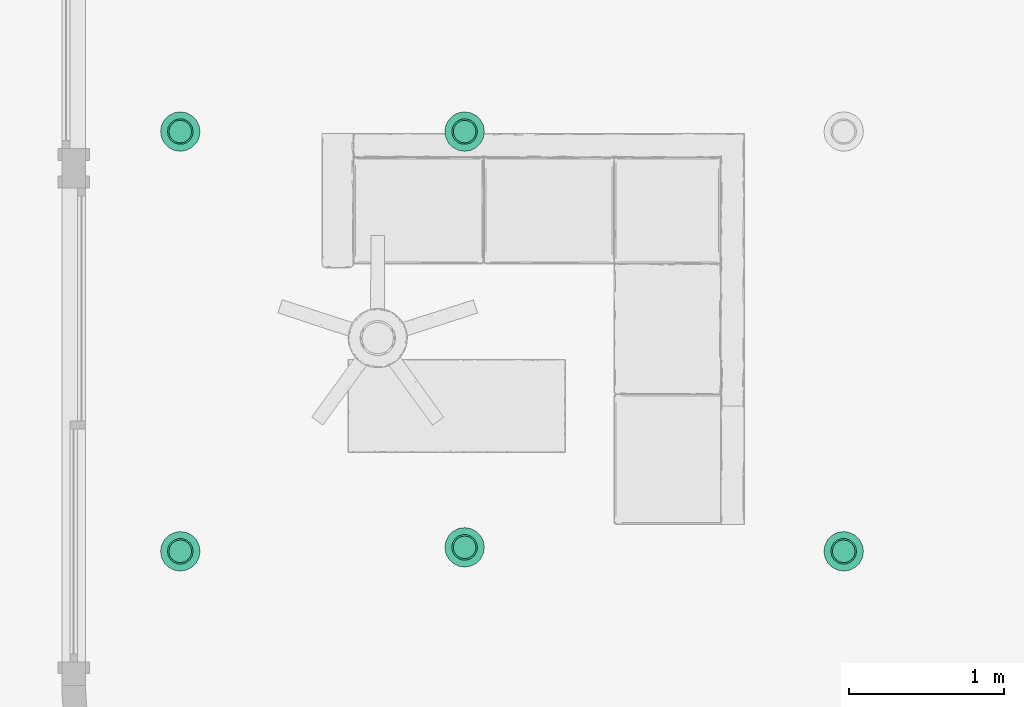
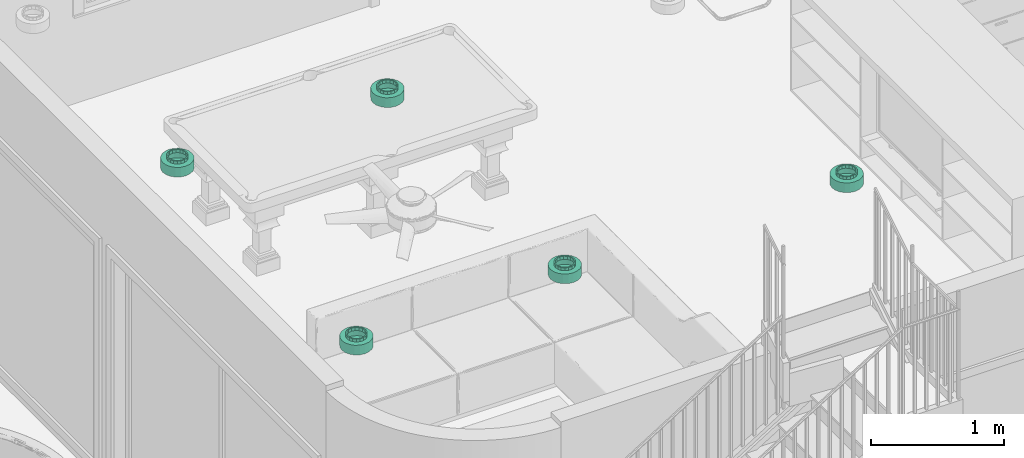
# One storey, part 13 of 21: 5 flow terminals.
"""IFC2X3 building model written with IfcOpenShell, lengths in feet."""

from ifc_helpers import new_model, entity, si_unit, converted_unit, derived_unit, direction, frame, origin, place, context, subcontext, project, spatial, faceted_brep, source, transform, mapped, material, material_list, type_object, type_shapes, element, save


model = new_model("IFC2X3")

# Units and contexts
model_context = context("Model", 3, precision=0.0001, world=origin(), true_north=direction((6.12303176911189e-17, 1.0)))
body_context = subcontext(model_context, "Body", "Model", "MODEL_VIEW")
ifc_project = project(units=[converted_unit("LENGTHUNIT", "FOOT", entity("IfcRatioMeasure", 0.3048), si_unit("LENGTHUNIT", "METRE"), dimensions=[1, 0, 0, 0, 0, 0, 0]), converted_unit("AREAUNIT", "SQUARE FOOT", entity("IfcRatioMeasure", 0.09290304), si_unit("AREAUNIT", "SQUARE_METRE"), dimensions=[2, 0, 0, 0, 0, 0, 0]), converted_unit("VOLUMEUNIT", "CUBIC FOOT", entity("IfcRatioMeasure", 0.028316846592), si_unit("VOLUMEUNIT", "CUBIC_METRE"), dimensions=[3, 0, 0, 0, 0, 0, 0]), converted_unit("PLANEANGLEUNIT", "DEGREE", entity("IfcRatioMeasure", 0.0174532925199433), si_unit("PLANEANGLEUNIT", "RADIAN"), dimensions=[0, 0, 0, 0, 0, 0, 0]), si_unit("MASSUNIT", "GRAM", prefix="KILO"), derived_unit("MASSDENSITYUNIT", [(si_unit("MASSUNIT", "GRAM", prefix="KILO"), 1), (si_unit("LENGTHUNIT", "METRE"), -3)]), si_unit("TIMEUNIT", "SECOND"), si_unit("FREQUENCYUNIT", "HERTZ"), si_unit("THERMODYNAMICTEMPERATUREUNIT", "DEGREE_CELSIUS"), derived_unit("THERMALTRANSMITTANCEUNIT", [(si_unit("MASSUNIT", "GRAM", prefix="KILO"), 1), (si_unit("THERMODYNAMICTEMPERATUREUNIT", "KELVIN"), -1), (si_unit("TIMEUNIT", "SECOND"), -3)]), derived_unit("VOLUMETRICFLOWRATEUNIT", [(si_unit("LENGTHUNIT", "METRE"), 3), (si_unit("TIMEUNIT", "SECOND"), -1)]), si_unit("ELECTRICCURRENTUNIT", "AMPERE"), si_unit("ELECTRICVOLTAGEUNIT", "VOLT"), si_unit("POWERUNIT", "WATT"), si_unit("FORCEUNIT", "NEWTON"), si_unit("ILLUMINANCEUNIT", "LUX"), si_unit("LUMINOUSFLUXUNIT", "LUMEN"), si_unit("LUMINOUSINTENSITYUNIT", "CANDELA"), derived_unit("USERDEFINED", [(si_unit("MASSUNIT", "GRAM", prefix="KILO"), -1), (si_unit("LENGTHUNIT", "METRE"), -2), (si_unit("TIMEUNIT", "SECOND"), 3), (si_unit("LUMINOUSFLUXUNIT", "LUMEN"), 1)]), derived_unit("LINEARVELOCITYUNIT", [(si_unit("LENGTHUNIT", "METRE"), 1), (si_unit("TIMEUNIT", "SECOND"), -1)]), si_unit("PRESSUREUNIT", "PASCAL"), derived_unit("USERDEFINED", [(si_unit("LENGTHUNIT", "METRE"), -2), (si_unit("MASSUNIT", "GRAM", prefix="KILO"), 1), (si_unit("TIMEUNIT", "SECOND"), -2)])], contexts=[model_context])

# Site, building, storey
site_placement = place(None, origin())
site = spatial("IfcSite", under=ifc_project, at=site_placement, Name="表面", CompositionType="ELEMENT")
building_placement = place(site_placement, origin())
building = spatial("IfcBuilding", under=site, at=building_placement, CompositionType="ELEMENT")
storey_placement = place(building_placement, origin())
storey = spatial("IfcBuildingStorey", under=building, at=storey_placement, Name="Level 1", CompositionType="ELEMENT", Elevation=0.0)

# Flow terminals
ifc_material_1 = material(Name="Metal - Paint Finish - Dark Gray, Matte")
ifc_material_2 = material(Name="Glass - White, High Luminance")
ifc_material_list_1 = material_list([ifc_material_1, ifc_material_2])
ifc_material_list_2 = material_list([ifc_material_1, ifc_material_2])
light_fixture_type = type_object("IfcLightFixtureType", Name="100W - 120V", PredefinedType="NOTDEFINED", material=ifc_material_list_2)
shared_shape = source(origin(), body_context, "Body", "Brep", [
    faceted_brep([(0.557291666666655, 0.187326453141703, 0.374999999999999), (0.598651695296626, 0.245098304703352, 0.374999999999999), (0.558098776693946, 0.218001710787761, 0.374999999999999), (0.629345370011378, 0.247786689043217, 0.374999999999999), (0.517545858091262, 0.190905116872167, 0.374999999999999), (0.468904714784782, 0.155156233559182, 0.374999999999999), (0.625748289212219, 0.285651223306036, 0.374999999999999), (0.65284488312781, 0.326204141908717, 0.374999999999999), (0.676375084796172, 0.329244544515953, 0.374999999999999), (0.6623599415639, 0.374039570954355, 0.374999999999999), (0.671874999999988, 0.42187499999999, 0.374999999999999), (0.692708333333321, 0.421874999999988, 0.374999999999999), (0.676375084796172, 0.514505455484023, 0.374999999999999), (0.662359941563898, 0.469710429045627, 0.374999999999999), (0.652844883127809, 0.517545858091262, 0.374999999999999), (0.629345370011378, 0.595963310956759, 0.374999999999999), (0.625748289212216, 0.558098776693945, 0.374999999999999), (0.598651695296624, 0.598651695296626, 0.374999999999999), (0.557291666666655, 0.656423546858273, 0.374999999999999), (0.55809877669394, 0.625748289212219, 0.374999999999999), (0.517545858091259, 0.65284488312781, 0.374999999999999), (0.468904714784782, 0.688593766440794, 0.374999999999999), (0.469710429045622, 0.662359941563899, 0.374999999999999), (0.421874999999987, 0.671874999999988, 0.374999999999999), (0.374845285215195, 0.688593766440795, 0.374999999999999), (0.374039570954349, 0.662359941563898, 0.374999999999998), (0.326204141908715, 0.652844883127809, 0.374999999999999), (0.286458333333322, 0.656423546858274, 0.374999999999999), (0.285651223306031, 0.625748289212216, 0.374999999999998), (0.245098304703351, 0.598651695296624, 0.374999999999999), (0.214404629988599, 0.59596331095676, 0.374999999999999), (0.218001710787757, 0.558098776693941, 0.374999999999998), (0.190905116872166, 0.51754585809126, 0.374999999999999), (0.167374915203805, 0.514505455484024, 0.374999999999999), (0.181390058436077, 0.469710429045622, 0.374999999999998), (0.171874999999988, 0.421874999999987, 0.374999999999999), (0.151041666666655, 0.421874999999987, 0.374999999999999), (0.167374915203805, 0.329244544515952, 0.374999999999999), (0.181390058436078, 0.374039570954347, 0.374999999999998), (0.190905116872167, 0.326204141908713, 0.374999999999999), (0.214404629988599, 0.247786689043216, 0.374999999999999), (0.218001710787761, 0.28565122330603, 0.374999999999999), (0.245098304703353, 0.245098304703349, 0.374999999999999), (0.286458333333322, 0.187326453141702, 0.374999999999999), (0.285651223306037, 0.218001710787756, 0.374999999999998), (0.326204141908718, 0.190905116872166, 0.374999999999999), (0.374845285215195, 0.155156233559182, 0.374999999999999), (0.42187499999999, 0.171874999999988, 0.374999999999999), (0.374039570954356, 0.181390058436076, 0.374999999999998), (0.469710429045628, 0.181390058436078, 0.374999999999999), (0.557291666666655, 0.656423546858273, 0.291666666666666), (0.598651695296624, 0.598651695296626, 0.291666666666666), (0.55809877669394, 0.625748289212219, 0.291666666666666), (0.629345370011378, 0.595963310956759, 0.291666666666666), (0.517545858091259, 0.65284488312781, 0.291666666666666), (0.468904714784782, 0.688593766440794, 0.291666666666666), (0.625748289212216, 0.558098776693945, 0.291666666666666), (0.652844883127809, 0.517545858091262, 0.291666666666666), (0.676375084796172, 0.514505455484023, 0.291666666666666), (0.662359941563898, 0.469710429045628, 0.291666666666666), (0.671874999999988, 0.42187499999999, 0.291666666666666), (0.692708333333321, 0.421874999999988, 0.291666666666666), (0.676375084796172, 0.329244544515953, 0.291666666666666), (0.659760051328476, 0.36096904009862, 0.291666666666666), (0.65284488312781, 0.326204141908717, 0.291666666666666), (0.629345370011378, 0.247786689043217, 0.291666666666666), (0.625748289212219, 0.285651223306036, 0.291666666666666), (0.598651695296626, 0.245098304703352, 0.291666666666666), (0.557291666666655, 0.187326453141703, 0.291666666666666), (0.558098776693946, 0.218001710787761, 0.291666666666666), (0.517545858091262, 0.190905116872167, 0.291666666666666), (0.468904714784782, 0.155156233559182, 0.291666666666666), (0.469710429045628, 0.181390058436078, 0.291666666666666), (0.42187499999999, 0.171874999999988, 0.291666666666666), (0.374845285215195, 0.155156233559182, 0.291666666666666), (0.374039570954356, 0.181390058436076, 0.291666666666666), (0.326204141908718, 0.190905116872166, 0.291666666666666), (0.286458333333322, 0.187326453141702, 0.291666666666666), (0.285651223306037, 0.218001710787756, 0.291666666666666), (0.245098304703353, 0.245098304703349, 0.291666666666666), (0.214404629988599, 0.247786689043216, 0.291666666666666), (0.218001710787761, 0.28565122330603, 0.291666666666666), (0.190905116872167, 0.326204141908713, 0.291666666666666), (0.167374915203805, 0.329244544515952, 0.291666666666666), (0.181390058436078, 0.374039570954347, 0.291666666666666), (0.171874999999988, 0.421874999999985, 0.291666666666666), (0.151041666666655, 0.421874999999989, 0.291666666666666), (0.167374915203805, 0.514505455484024, 0.291666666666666), (0.183989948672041, 0.482780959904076, 0.291666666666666), (0.190905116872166, 0.51754585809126, 0.291666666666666), (0.214404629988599, 0.59596331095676, 0.291666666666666), (0.218001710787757, 0.558098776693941, 0.291666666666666), (0.245098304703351, 0.598651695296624, 0.291666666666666), (0.286458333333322, 0.656423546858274, 0.291666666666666), (0.285651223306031, 0.625748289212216, 0.291666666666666), (0.326204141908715, 0.652844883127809, 0.291666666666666), (0.374845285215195, 0.688593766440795, 0.291666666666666), (0.421874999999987, 0.671874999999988, 0.291666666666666), (0.374039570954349, 0.662359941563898, 0.291666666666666), (0.469710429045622, 0.662359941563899, 0.291666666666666)], [[[0, 1, 2]], [[1, 0, 3]], [[0, 2, 4]], [[4, 5, 0]], [[3, 6, 1]], [[3, 7, 6]], [[7, 3, 8]], [[8, 9, 7]], [[8, 10, 9]], [[10, 8, 11]], [[10, 11, 12]], [[12, 13, 10]], [[12, 14, 13]], [[15, 14, 12]], [[15, 16, 14]], [[15, 17, 16]], [[18, 17, 15]], [[18, 19, 17]], [[18, 20, 19]], [[21, 20, 18]], [[21, 22, 20]], [[21, 23, 22]], [[24, 23, 21]], [[24, 25, 23]], [[24, 26, 25]], [[27, 26, 24]], [[27, 28, 26]], [[27, 29, 28]], [[29, 27, 30]], [[30, 31, 29]], [[30, 32, 31]], [[32, 30, 33]], [[33, 34, 32]], [[33, 35, 34]], [[36, 35, 33]], [[37, 35, 36]], [[37, 38, 35]], [[37, 39, 38]], [[39, 37, 40]], [[40, 41, 39]], [[40, 42, 41]], [[42, 40, 43]], [[43, 44, 42]], [[43, 45, 44]], [[45, 43, 46]], [[47, 46, 5]], [[46, 47, 48]], [[46, 48, 45]], [[5, 4, 49]], [[5, 49, 47]], [[50, 51, 52]], [[51, 50, 53]], [[50, 52, 54]], [[54, 55, 50]], [[53, 56, 51]], [[53, 57, 56]], [[57, 53, 58]], [[58, 59, 57]], [[58, 60, 59]], [[60, 58, 61]], [[60, 61, 62]], [[62, 63, 60]], [[62, 64, 63]], [[65, 64, 62]], [[65, 66, 64]], [[65, 67, 66]], [[68, 67, 65]], [[68, 69, 67]], [[68, 70, 69]], [[71, 70, 68]], [[71, 72, 70]], [[71, 73, 72]], [[74, 73, 71]], [[74, 75, 73]], [[74, 76, 75]], [[77, 76, 74]], [[77, 78, 76]], [[77, 79, 78]], [[79, 77, 80]], [[80, 81, 79]], [[80, 82, 81]], [[82, 80, 83]], [[83, 84, 82]], [[83, 85, 84]], [[86, 85, 83]], [[87, 85, 86]], [[87, 88, 85]], [[87, 89, 88]], [[89, 87, 90]], [[90, 91, 89]], [[90, 92, 91]], [[92, 90, 93]], [[93, 94, 92]], [[93, 95, 94]], [[95, 93, 96]], [[97, 96, 55]], [[96, 97, 98]], [[96, 98, 95]], [[55, 54, 99]], [[55, 99, 97]], [[37, 36, 86, 83]], [[43, 40, 80, 77]], [[83, 80, 40, 37]], [[77, 74, 46, 43]], [[74, 71, 5, 46]], [[0, 5, 71, 68]], [[8, 3, 65, 62]], [[68, 65, 3, 0]], [[62, 61, 11, 8]], [[12, 11, 61, 58]], [[18, 15, 53, 50]], [[58, 53, 15, 12]], [[50, 55, 21, 18]], [[55, 96, 24, 21]], [[27, 24, 96, 93]], [[87, 33, 30, 90]], [[90, 30, 27, 93]], [[33, 87, 86, 36]], [[34, 35, 85, 88, 89, 32]], [[89, 91, 92, 29, 31, 32]], [[59, 60, 10, 13, 14, 57]], [[92, 94, 95, 26, 28, 29]], [[23, 25, 26, 95, 98, 97]], [[97, 99, 54, 20, 22, 23]], [[16, 17, 51, 56, 57, 14]], [[54, 52, 51, 17, 19, 20]], [[9, 10, 60, 63, 64, 7]], [[64, 66, 67, 1, 6, 7]], [[84, 85, 35, 38, 39, 82]], [[67, 69, 70, 4, 2, 1]], [[47, 49, 4, 70, 72, 73]], [[73, 75, 76, 45, 48, 47]], [[41, 42, 79, 81, 82, 39]], [[76, 78, 79, 42, 44, 45]]]),
    faceted_brep([(0.671874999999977, 0.421874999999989, 0.291666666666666), (0.838541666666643, 0.421874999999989, 0.291666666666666), (0.81814854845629, 0.550632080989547, 0.291666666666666), (0.818148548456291, 0.293117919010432, 0.291666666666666), (0.659760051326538, 0.360969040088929, 0.291666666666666), (0.662359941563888, 0.469710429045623, 0.291666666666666), (0.6528448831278, 0.326204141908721, 0.291666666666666), (0.758965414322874, 0.176964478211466, 0.291666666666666), (0.625748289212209, 0.28565122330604, 0.291666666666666), (0.598651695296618, 0.24509830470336, 0.291666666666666), (0.666785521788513, 0.084784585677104, 0.291666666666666), (0.558098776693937, 0.218001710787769, 0.291666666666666), (0.517545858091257, 0.190905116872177, 0.291666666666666), (0.550632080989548, 0.025601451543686, 0.291666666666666), (0.469710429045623, 0.181390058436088, 0.291666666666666), (0.421874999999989, 0.171874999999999, 0.291666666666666), (0.42187499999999, 0.00520833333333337, 0.291666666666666), (0.293117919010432, 0.0256014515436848, 0.291666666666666), (0.374039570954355, 0.181390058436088, 0.291666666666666), (0.326204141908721, 0.190905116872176, 0.291666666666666), (0.176964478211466, 0.0847845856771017, 0.291666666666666), (0.285651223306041, 0.218001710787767, 0.291666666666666), (0.24509830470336, 0.245098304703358, 0.291666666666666), (0.0847845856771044, 0.176964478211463, 0.291666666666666), (0.218001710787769, 0.285651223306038, 0.291666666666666), (0.190905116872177, 0.326204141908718, 0.291666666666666), (0.0256014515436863, 0.293117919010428, 0.291666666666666), (0.181390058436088, 0.374039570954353, 0.291666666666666), (0.171874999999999, 0.421874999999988, 0.291666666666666), (0.00520833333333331, 0.421874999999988, 0.291666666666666), (0.0256014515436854, 0.550632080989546, 0.291666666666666), (0.183989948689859, 0.482780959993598, 0.291666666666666), (0.190905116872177, 0.517545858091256, 0.291666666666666), (0.0847845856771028, 0.666785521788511, 0.291666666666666), (0.218001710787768, 0.558098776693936, 0.291666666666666), (0.245098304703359, 0.598651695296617, 0.291666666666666), (0.176964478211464, 0.758965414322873, 0.291666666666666), (0.285651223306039, 0.625748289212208, 0.291666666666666), (0.32620414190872, 0.652844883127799, 0.291666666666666), (0.29311791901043, 0.81814854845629, 0.291666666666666), (0.374039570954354, 0.662359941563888, 0.291666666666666), (0.421874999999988, 0.671874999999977, 0.291666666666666), (0.421874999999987, 0.838541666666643, 0.291666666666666), (0.550632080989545, 0.818148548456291, 0.291666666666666), (0.469710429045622, 0.662359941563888, 0.291666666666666), (0.517545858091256, 0.6528448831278, 0.291666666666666), (0.666785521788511, 0.758965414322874, 0.291666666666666), (0.558098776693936, 0.625748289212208, 0.291666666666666), (0.598651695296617, 0.598651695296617, 0.291666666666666), (0.758965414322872, 0.666785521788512, 0.291666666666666), (0.625748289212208, 0.558098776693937, 0.291666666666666), (0.652844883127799, 0.517545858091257, 0.291666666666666), (0.0256014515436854, 0.550632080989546, 0.0), (0.00520833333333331, 0.421874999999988, 0.0), (0.0847845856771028, 0.666785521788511, 0.0), (0.176964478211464, 0.758965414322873, 0.0), (0.29311791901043, 0.818148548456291, 0.0), (0.421874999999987, 0.838541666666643, 0.0), (0.550632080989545, 0.818148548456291, 0.0), (0.666785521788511, 0.758965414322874, 0.0), (0.758965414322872, 0.666785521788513, 0.0), (0.81814854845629, 0.550632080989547, 0.0), (0.838541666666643, 0.42187499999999, 0.0), (0.818148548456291, 0.293117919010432, 0.0), (0.666785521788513, 0.0847845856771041, 0.0), (0.550632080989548, 0.025601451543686, 0.0), (0.42187499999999, 0.00520833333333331, 0.0), (0.758965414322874, 0.176964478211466, 0.0), (0.293117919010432, 0.0256014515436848, 0.0), (0.176964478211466, 0.0847845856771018, 0.0), (0.0847845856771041, 0.176964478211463, 0.0), (0.025601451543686, 0.293117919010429, 0.0), (0.421874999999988, 0.421874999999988, 0.0), (0.808241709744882, 0.547413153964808, 0.0104166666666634), (0.421874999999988, 0.421874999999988, 0.0104166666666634), (0.828124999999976, 0.421874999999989, 0.0104166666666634), (0.7505381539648, 0.660662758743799, 0.0104166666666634), (0.660662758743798, 0.750538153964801, 0.0104166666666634), (0.547413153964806, 0.808241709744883, 0.0104166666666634), (0.421874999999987, 0.828124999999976, 0.0104166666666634), (0.296336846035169, 0.808241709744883, 0.0104166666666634), (0.183087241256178, 0.750538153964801, 0.0104166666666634), (0.0932118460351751, 0.660662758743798, 0.0104166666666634), (0.0355082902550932, 0.547413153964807, 0.0104166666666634), (0.0156249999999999, 0.421874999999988, 0.0104166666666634), (0.0355082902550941, 0.296336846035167, 0.0104166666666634), (0.0932118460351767, 0.183087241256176, 0.0104166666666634), (0.18308724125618, 0.093211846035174, 0.0104166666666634), (0.296336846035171, 0.0355082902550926, 0.0104166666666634), (0.42187499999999, 0.0156249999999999, 0.0104166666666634), (0.547413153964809, 0.0355082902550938, 0.0104166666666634), (0.6606627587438, 0.0932118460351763, 0.0104166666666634), (0.750538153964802, 0.183087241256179, 0.0104166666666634), (0.808241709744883, 0.296336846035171, 0.0104166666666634), (0.0355082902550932, 0.547413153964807, 0.281249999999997), (0.0156249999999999, 0.421874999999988, 0.281249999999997), (0.0932118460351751, 0.660662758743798, 0.281249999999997), (0.183087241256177, 0.750538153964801, 0.281249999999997), (0.296336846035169, 0.808241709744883, 0.281249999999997), (0.421874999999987, 0.828124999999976, 0.281249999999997), (0.660662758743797, 0.750538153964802, 0.281249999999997), (0.547413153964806, 0.808241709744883, 0.281249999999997), (0.808241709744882, 0.547413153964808, 0.281249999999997), (0.7505381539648, 0.660662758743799, 0.281249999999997), (0.828124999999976, 0.42187499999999, 0.281249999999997), (0.808241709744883, 0.296336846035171, 0.281249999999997), (0.547413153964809, 0.0355082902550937, 0.281249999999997), (0.6606627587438, 0.0932118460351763, 0.281249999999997), (0.42187499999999, 0.0156249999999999, 0.281249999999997), (0.750538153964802, 0.183087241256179, 0.281249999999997), (0.183087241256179, 0.0932118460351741, 0.281249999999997), (0.296336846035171, 0.0355082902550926, 0.281249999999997), (0.0355082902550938, 0.296336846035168, 0.281249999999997), (0.0932118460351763, 0.183087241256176, 0.281249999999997), (0.66145833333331, 0.421874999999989, 0.281249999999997), (0.650878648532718, 0.475062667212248, 0.281249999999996), (0.643221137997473, 0.513559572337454, 0.281249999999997), (0.650878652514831, 0.368687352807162, 0.281249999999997), (0.643221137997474, 0.330190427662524, 0.281249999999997), (0.617253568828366, 0.291327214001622, 0.281249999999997), (0.591285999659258, 0.25246400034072, 0.281249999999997), (0.552422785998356, 0.226496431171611, 0.281249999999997), (0.513559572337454, 0.200528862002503, 0.281249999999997), (0.467717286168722, 0.191410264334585, 0.281249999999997), (0.421874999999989, 0.182291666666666, 0.281249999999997), (0.376032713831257, 0.191410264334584, 0.281249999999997), (0.330190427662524, 0.200528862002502, 0.281249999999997), (0.291327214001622, 0.22649643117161, 0.281249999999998), (0.25246400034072, 0.252464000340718, 0.281249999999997), (0.226496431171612, 0.29132721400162, 0.281249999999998), (0.200528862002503, 0.330190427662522, 0.281249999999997), (0.191410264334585, 0.376032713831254, 0.281249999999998), (0.182291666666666, 0.421874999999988, 0.281249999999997), (0.192871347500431, 0.47506264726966, 0.281249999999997), (0.200528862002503, 0.513559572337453, 0.281249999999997), (0.226496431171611, 0.552422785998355, 0.281249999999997), (0.252464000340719, 0.591285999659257, 0.281249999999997), (0.291327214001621, 0.617253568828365, 0.281249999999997), (0.330190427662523, 0.643221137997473, 0.281249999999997), (0.376032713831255, 0.652339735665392, 0.281249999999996), (0.421874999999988, 0.66145833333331, 0.281249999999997), (0.46771728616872, 0.652339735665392, 0.281249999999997), (0.513559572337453, 0.643221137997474, 0.281249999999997), (0.591285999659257, 0.591285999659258, 0.281249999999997), (0.552422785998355, 0.617253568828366, 0.281249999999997), (0.617253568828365, 0.552422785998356, 0.281249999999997), (0.191410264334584, 0.467717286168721, 0.375), (0.182291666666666, 0.421874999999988, 0.375), (0.200528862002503, 0.513559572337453, 0.375), (0.252464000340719, 0.591285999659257, 0.375), (0.226496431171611, 0.552422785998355, 0.375), (0.330190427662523, 0.643221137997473, 0.375), (0.291327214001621, 0.617253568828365, 0.375), (0.421874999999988, 0.66145833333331, 0.375), (0.376032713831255, 0.652339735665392, 0.375), (0.552422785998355, 0.617253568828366, 0.375), (0.513559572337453, 0.643221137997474, 0.375), (0.591285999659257, 0.591285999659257, 0.375), (0.643221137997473, 0.513559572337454, 0.375), (0.617253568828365, 0.552422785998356, 0.375), (0.46771728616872, 0.652339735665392, 0.375), (0.652339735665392, 0.467717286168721, 0.375), (0.66145833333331, 0.421874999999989, 0.375), (0.652339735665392, 0.376032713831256, 0.375), (0.643221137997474, 0.330190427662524, 0.375), (0.591285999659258, 0.25246400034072, 0.375), (0.617253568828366, 0.291327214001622, 0.375), (0.513559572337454, 0.200528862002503, 0.375), (0.552422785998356, 0.226496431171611, 0.375), (0.421874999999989, 0.182291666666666, 0.375), (0.467717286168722, 0.191410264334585, 0.375), (0.200528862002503, 0.330190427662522, 0.375), (0.192871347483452, 0.368687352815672, 0.375), (0.25246400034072, 0.252464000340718, 0.375), (0.291327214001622, 0.22649643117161, 0.375), (0.330190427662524, 0.200528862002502, 0.375), (0.226496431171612, 0.29132721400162, 0.375), (0.376032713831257, 0.191410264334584, 0.375), (0.671874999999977, 0.421874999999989, 0.375), (0.659760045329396, 0.482780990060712, 0.375), (0.652844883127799, 0.517545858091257, 0.375), (0.662359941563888, 0.374039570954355, 0.375), (0.6528448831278, 0.326204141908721, 0.375), (0.625748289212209, 0.28565122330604, 0.375), (0.598651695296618, 0.24509830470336, 0.375), (0.558098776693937, 0.218001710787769, 0.375), (0.517545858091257, 0.190905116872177, 0.375), (0.469710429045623, 0.181390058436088, 0.375), (0.421874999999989, 0.171874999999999, 0.375), (0.374039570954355, 0.181390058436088, 0.375), (0.326204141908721, 0.190905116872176, 0.375), (0.285651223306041, 0.218001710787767, 0.375), (0.24509830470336, 0.245098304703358, 0.375), (0.218001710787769, 0.285651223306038, 0.375), (0.190905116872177, 0.326204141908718, 0.375), (0.183989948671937, 0.360969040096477, 0.375), (0.171874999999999, 0.421874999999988, 0.375), (0.181390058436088, 0.469710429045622, 0.375), (0.190905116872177, 0.517545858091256, 0.375), (0.218001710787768, 0.558098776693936, 0.375), (0.245098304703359, 0.598651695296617, 0.375), (0.285651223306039, 0.625748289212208, 0.375), (0.32620414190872, 0.652844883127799, 0.375), (0.374039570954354, 0.662359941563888, 0.375), (0.421874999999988, 0.671874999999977, 0.375), (0.469710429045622, 0.662359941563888, 0.375), (0.517545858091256, 0.6528448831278, 0.375), (0.558098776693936, 0.625748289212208, 0.375), (0.598651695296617, 0.598651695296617, 0.375), (0.625748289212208, 0.558098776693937, 0.375)], [[[0, 1, 2]], [[0, 3, 1]], [[3, 0, 4]], [[2, 5, 0]], [[3, 4, 6]], [[7, 3, 6]], [[7, 6, 8]], [[7, 8, 9]], [[10, 7, 9]], [[10, 9, 11]], [[10, 11, 12]], [[10, 12, 13]], [[13, 12, 14]], [[13, 14, 15]], [[16, 13, 15]], [[16, 15, 17]], [[17, 15, 18]], [[17, 18, 19]], [[17, 19, 20]], [[20, 19, 21]], [[20, 21, 22]], [[23, 20, 22]], [[23, 22, 24]], [[23, 24, 25]], [[25, 26, 23]], [[26, 25, 27]], [[26, 27, 28]], [[29, 26, 28]], [[30, 29, 28]], [[30, 28, 31]], [[30, 31, 32]], [[30, 32, 33]], [[33, 32, 34]], [[33, 34, 35]], [[36, 33, 35]], [[36, 35, 37]], [[36, 37, 38]], [[39, 36, 38]], [[39, 38, 40]], [[39, 40, 41]], [[42, 39, 41]], [[42, 41, 43]], [[43, 41, 44]], [[43, 44, 45]], [[46, 43, 45]], [[46, 45, 47]], [[46, 47, 48]], [[46, 48, 49]], [[49, 48, 50]], [[49, 50, 51]], [[49, 51, 2]], [[2, 51, 5]], [[52, 53, 29, 30]], [[30, 33, 54, 52]], [[36, 55, 54, 33]], [[55, 36, 39, 56]], [[56, 39, 42, 57]], [[58, 43, 46, 59]], [[60, 49, 2, 61]], [[46, 49, 60, 59]], [[61, 2, 1, 62]], [[43, 58, 57, 42]], [[1, 3, 63, 62]], [[64, 10, 13, 65]], [[16, 66, 65, 13]], [[63, 3, 7, 67]], [[10, 64, 67, 7]], [[68, 17, 20, 69]], [[70, 23, 26, 71]], [[20, 23, 70, 69]], [[71, 26, 29, 53]], [[17, 68, 66, 16]], [[62, 72, 61]], [[62, 63, 72]], [[72, 63, 67]], [[72, 67, 64]], [[72, 64, 65]], [[65, 66, 72]], [[68, 72, 66]], [[72, 68, 69]], [[72, 69, 70]], [[71, 72, 70]], [[72, 71, 53]], [[72, 53, 52]], [[72, 52, 54]], [[54, 55, 72]], [[72, 55, 56]], [[56, 57, 72]], [[72, 57, 58]], [[59, 72, 58]], [[72, 59, 60]], [[61, 72, 60]], [[73, 74, 75]], [[76, 74, 73]], [[76, 77, 74]], [[78, 74, 77]], [[78, 79, 74]], [[74, 79, 80]], [[80, 81, 74]], [[74, 81, 82]], [[82, 83, 74]], [[83, 84, 74]], [[84, 85, 74]], [[86, 74, 85]], [[86, 87, 74]], [[87, 88, 74]], [[89, 74, 88]], [[74, 89, 90]], [[90, 91, 74]], [[91, 92, 74]], [[92, 93, 74]], [[74, 93, 75]], [[94, 95, 84, 83]], [[82, 96, 94, 83]], [[96, 82, 81, 97]], [[81, 80, 98, 97]], [[98, 80, 79, 99]], [[100, 101, 78, 77]], [[102, 103, 76, 73]], [[77, 76, 103, 100]], [[104, 102, 73, 75]], [[79, 78, 101, 99]], [[105, 104, 75, 93]], [[106, 107, 91, 90]], [[108, 106, 90, 89]], [[93, 92, 109, 105]], [[109, 92, 91, 107]], [[110, 111, 88, 87]], [[112, 113, 86, 85]], [[87, 86, 113, 110]], [[95, 112, 85, 84]], [[89, 88, 111, 108]], [[102, 104, 114]], [[102, 114, 115]], [[102, 115, 116]], [[102, 116, 103]], [[104, 105, 114]], [[105, 117, 114]], [[105, 118, 117]], [[118, 105, 109]], [[109, 119, 118]], [[109, 120, 119]], [[120, 109, 107]], [[107, 121, 120]], [[107, 122, 121]], [[106, 122, 107]], [[106, 123, 122]], [[106, 124, 123]], [[124, 106, 108]], [[111, 124, 108]], [[111, 125, 124]], [[111, 126, 125]], [[110, 126, 111]], [[110, 127, 126]], [[110, 128, 127]], [[128, 110, 113]], [[113, 129, 128]], [[113, 130, 129]], [[113, 112, 130]], [[112, 131, 130]], [[112, 132, 131]], [[132, 112, 95]], [[132, 95, 94]], [[94, 133, 132]], [[94, 134, 133]], [[96, 134, 94]], [[96, 135, 134]], [[96, 136, 135]], [[136, 96, 97]], [[97, 137, 136]], [[97, 138, 137]], [[138, 97, 98]], [[98, 139, 138]], [[98, 140, 139]], [[140, 98, 99]], [[101, 140, 99]], [[101, 141, 140]], [[101, 142, 141]], [[142, 101, 100]], [[103, 143, 100]], [[100, 143, 144]], [[100, 144, 142]], [[103, 116, 145]], [[103, 145, 143]], [[146, 147, 132, 133, 134, 148]], [[136, 149, 150, 148, 134, 135]], [[136, 137, 138, 151, 152, 149]], [[151, 138, 139, 140, 153, 154]], [[155, 156, 142, 144, 143, 157]], [[116, 158, 159, 157, 143, 145]], [[153, 140, 141, 142, 156, 160]], [[161, 158, 116, 115, 114, 162]], [[163, 162, 114, 117, 118, 164]], [[120, 165, 166, 164, 118, 119]], [[120, 121, 122, 167, 168, 165]], [[123, 124, 169, 170, 167, 122]], [[171, 130, 131, 132, 147, 172]], [[128, 173, 174, 175, 126, 127]], [[128, 129, 130, 171, 176, 173]], [[175, 177, 169, 124, 125, 126]], [[162, 178, 179]], [[162, 179, 180]], [[180, 161, 162]], [[162, 181, 178]], [[162, 182, 181]], [[182, 162, 163]], [[182, 163, 164]], [[164, 183, 182]], [[164, 184, 183]], [[184, 164, 166]], [[184, 166, 165]], [[165, 185, 184]], [[165, 186, 185]], [[186, 165, 168]], [[186, 168, 167]], [[167, 187, 186]], [[167, 188, 187]], [[188, 167, 170]], [[188, 170, 169]], [[188, 169, 177]], [[188, 177, 175]], [[175, 189, 188]], [[175, 190, 189]], [[190, 175, 174]], [[190, 174, 173]], [[173, 191, 190]], [[173, 192, 191]], [[192, 173, 176]], [[192, 176, 171]], [[171, 193, 192]], [[171, 194, 193]], [[194, 171, 172]], [[194, 172, 147]], [[147, 195, 194]], [[147, 196, 195]], [[147, 197, 196]], [[147, 198, 197]], [[198, 147, 146]], [[198, 146, 148]], [[148, 199, 198]], [[148, 200, 199]], [[200, 148, 150]], [[200, 150, 149]], [[149, 201, 200]], [[149, 202, 201]], [[202, 149, 152]], [[202, 152, 151]], [[151, 203, 202]], [[151, 204, 203]], [[204, 151, 154]], [[204, 154, 153]], [[204, 153, 160]], [[204, 160, 156]], [[156, 205, 204]], [[156, 206, 205]], [[206, 156, 155]], [[206, 155, 157]], [[157, 207, 206]], [[157, 208, 207]], [[208, 157, 159]], [[208, 159, 158]], [[158, 180, 209]], [[180, 158, 161]], [[158, 209, 208]], [[198, 32, 31, 28, 196, 197]], [[199, 200, 35, 34, 32, 198]], [[200, 201, 202, 38, 37, 35]], [[40, 38, 202, 203, 204, 41]], [[47, 45, 206, 207, 208, 48]], [[178, 0, 5, 51, 180, 179]], [[208, 209, 180, 51, 50, 48]], [[45, 44, 41, 204, 205, 206]], [[182, 6, 4, 0, 178, 181]], [[183, 184, 9, 8, 6, 182]], [[184, 185, 186, 12, 11, 9]], [[187, 188, 15, 14, 12, 186]], [[195, 196, 28, 27, 25, 194]], [[191, 192, 22, 21, 19, 190]], [[192, 193, 194, 25, 24, 22]], [[19, 18, 15, 188, 189, 190]]]),
])
type_shapes(light_fixture_type, [shared_shape])
flow_terminal_1_placement = place(storey_placement, frame((-25.9567880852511, -6.6561479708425, 8.625)))
element("IfcFlowTerminal", 1, at=flow_terminal_1_placement, inside=storey, type_object=light_fixture_type, material=ifc_material_list_1, Name="Ceiling Light - Flat Round:100W - 120V", ObjectType="100W - 120V", context=body_context, shape_type="MappedRepresentation", body=[
    mapped(shared_shape, transform((0.0, 0.0, 0.0), scale=1.0)),
])
ifc_material_list_3 = material_list([ifc_material_1, ifc_material_2])
flow_terminal_2_placement = place(storey_placement, frame((-25.9567880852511, 2.11856459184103, 8.625)))
element("IfcFlowTerminal", 2, at=flow_terminal_2_placement, inside=storey, type_object=light_fixture_type, material=ifc_material_list_3, Name="Ceiling Light - Flat Round:100W - 120V", ObjectType="100W - 120V", context=body_context, shape_type="MappedRepresentation", body=[
    mapped(shared_shape, transform((0.0, 0.0, 0.0), scale=1.0)),
])
ifc_material_list_4 = material_list([ifc_material_1, ifc_material_2])
flow_terminal_3_placement = place(storey_placement, frame((-17.9567880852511, -6.73948130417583, 8.625)))
element("IfcFlowTerminal", 3, at=flow_terminal_3_placement, inside=storey, type_object=light_fixture_type, material=ifc_material_list_4, Name="Ceiling Light - Flat Round:100W - 120V", ObjectType="100W - 120V", context=body_context, shape_type="MappedRepresentation", body=[
    mapped(shared_shape, transform((0.0, 0.0, 0.0), scale=1.0)),
])
ifc_material_list_5 = material_list([ifc_material_1, ifc_material_2])
flow_terminal_4_placement = place(storey_placement, frame((-31.9567880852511, -6.73948130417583, 8.625)))
element("IfcFlowTerminal", 4, at=flow_terminal_4_placement, inside=storey, type_object=light_fixture_type, material=ifc_material_list_5, Name="Ceiling Light - Flat Round:100W - 120V", ObjectType="100W - 120V", context=body_context, shape_type="MappedRepresentation", body=[
    mapped(shared_shape, transform((0.0, 0.0, 0.0), scale=1.0)),
])
ifc_material_list_6 = material_list([ifc_material_1, ifc_material_2])
flow_terminal_5_placement = place(storey_placement, frame((-31.9567880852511, 2.11856459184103, 8.625)))
element("IfcFlowTerminal", 5, at=flow_terminal_5_placement, inside=storey, type_object=light_fixture_type, material=ifc_material_list_6, Name="Ceiling Light - Flat Round:100W - 120V", ObjectType="100W - 120V", context=body_context, shape_type="MappedRepresentation", body=[
    mapped(shared_shape, transform((0.0, 0.0, 0.0), scale=1.0)),
])

save(model, "model.ifc")
